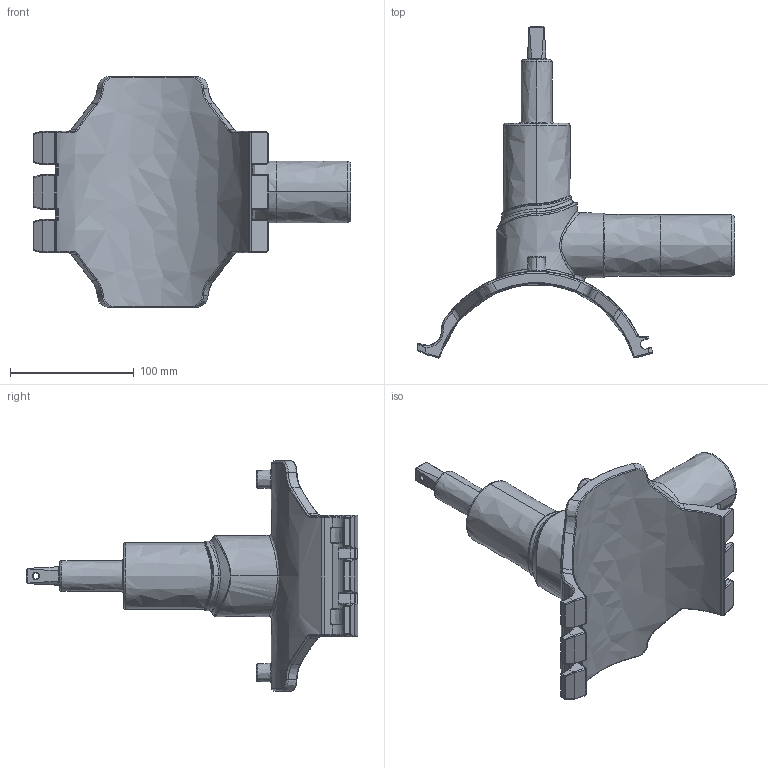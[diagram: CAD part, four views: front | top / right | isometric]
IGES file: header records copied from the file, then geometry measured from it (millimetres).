
Start section:  PTC IGES file: dav2_d160_50_01.igs
Global section: file name: dav2_d160_50_01.igs; native system: Creo Parametric by PTC Inc.; preprocessor: 2019030; author: demmerls; organization: Unknown; date: 20201127.110117; units: millimetre
Bounding box: 256.52 x 267.9 x 186 mm (x, y, z)
Surface area: 134977.7 mm2 (no closed solid volume)
Topology: 0 solids, 0 shells, 575 faces, 2784 edges, 2778 vertices
Faces by surface type: bspline 575
